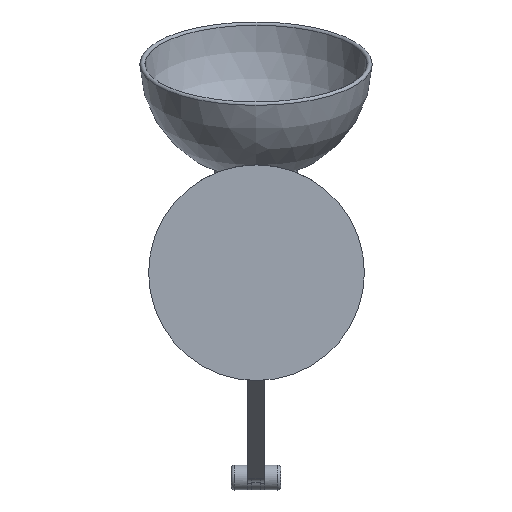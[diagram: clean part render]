
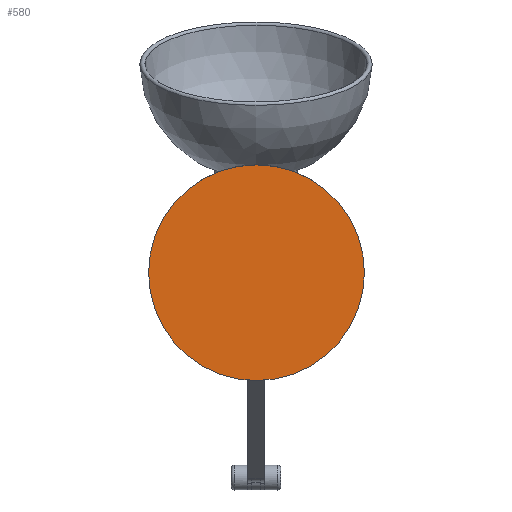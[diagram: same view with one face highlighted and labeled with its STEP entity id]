
A CAD part, front view. The second image highlights one B-rep face of the part: STEP entity #580.
In plain terms, the highlighted planar face has unit normal (0, -1, -0.001).
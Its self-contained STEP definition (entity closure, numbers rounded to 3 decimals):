
#122=PLANE('',#739);
#163=FACE_OUTER_BOUND('',#227,.T.);
#227=EDGE_LOOP('',(#523));
#272=CIRCLE('',#735,65.);
#324=VERTEX_POINT('',#1117);
#390=EDGE_CURVE('',#324,#324,#272,.T.);
#523=ORIENTED_EDGE('',*,*,#390,.T.);
#580=ADVANCED_FACE('',(#163),#122,.F.);
#735=AXIS2_PLACEMENT_3D('',#1118,#934,#935);
#739=AXIS2_PLACEMENT_3D('',#1123,#942,#943);
#934=DIRECTION('center_axis',(0.,-1.,0.));
#935=DIRECTION('ref_axis',(1.,0.,0.));
#942=DIRECTION('center_axis',(0.,1.,0.));
#943=DIRECTION('ref_axis',(0.,0.,1.));
#1117=CARTESIAN_POINT('',(-65.,0.,0.));
#1118=CARTESIAN_POINT('Origin',(0.,0.,0.));
#1123=CARTESIAN_POINT('Origin',(0.,0.,0.));
